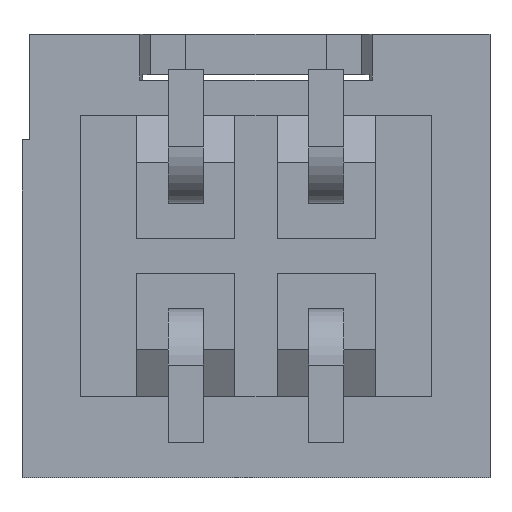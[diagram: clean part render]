
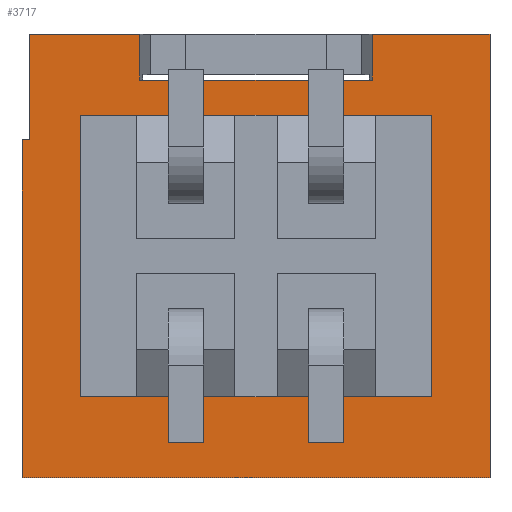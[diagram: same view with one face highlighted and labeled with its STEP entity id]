
A CAD part, front view. The second image highlights one B-rep face of the part: STEP entity #3717.
In plain terms, the highlighted planar face has unit normal (0, -1, 0).
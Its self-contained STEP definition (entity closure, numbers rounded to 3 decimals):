
#161=DIRECTION('',(0.,0.,-1.));
#162=VECTOR('',#161,4.);
#163=CARTESIAN_POINT('',(2.5,1.7,2.));
#164=LINE('',#163,#162);
#1241=DIRECTION('',(1.,0.,0.));
#1242=VECTOR('',#1241,5.);
#1243=CARTESIAN_POINT('',(-2.5,1.7,-2.));
#1244=LINE('',#1243,#1242);
#1245=DIRECTION('',(-1.,0.,0.));
#1246=VECTOR('',#1245,5.);
#1247=CARTESIAN_POINT('',(2.5,1.7,2.));
#1248=LINE('',#1247,#1246);
#1249=DIRECTION('',(0.,0.,-1.));
#1250=VECTOR('',#1249,4.);
#1251=CARTESIAN_POINT('',(-2.5,1.7,2.));
#1252=LINE('',#1251,#1250);
#1253=DIRECTION('',(1.,0.,0.));
#1254=VECTOR('',#1253,3.3);
#1255=CARTESIAN_POINT('',(-1.65,1.7,2.5));
#1256=LINE('',#1255,#1254);
#1257=DIRECTION('',(0.,0.,-1.));
#1258=VECTOR('',#1257,0.65);
#1259=CARTESIAN_POINT('',(1.65,1.7,3.15));
#1260=LINE('',#1259,#1258);
#1261=DIRECTION('',(1.,0.,0.));
#1262=VECTOR('',#1261,1.675);
#1263=CARTESIAN_POINT('',(1.65,1.7,3.15));
#1264=LINE('',#1263,#1262);
#1265=DIRECTION('',(-1.,0.,0.));
#1266=VECTOR('',#1265,6.65);
#1267=CARTESIAN_POINT('',(3.325,1.7,-3.15));
#1268=LINE('',#1267,#1266);
#1269=DIRECTION('',(1.,0.,0.));
#1270=VECTOR('',#1269,1.575);
#1271=CARTESIAN_POINT('',(-3.225,1.7,3.15));
#1272=LINE('',#1271,#1270);
#1273=DIRECTION('',(0.,0.,-1.));
#1274=VECTOR('',#1273,0.65);
#1275=CARTESIAN_POINT('',(-1.65,1.7,3.15));
#1276=LINE('',#1275,#1274);
#1321=DIRECTION('',(0.,0.,-1.));
#1322=VECTOR('',#1321,6.3);
#1323=CARTESIAN_POINT('',(3.325,1.7,3.15));
#1324=LINE('',#1323,#1322);
#1349=DIRECTION('',(0.,0.,1.));
#1350=VECTOR('',#1349,4.8);
#1351=CARTESIAN_POINT('',(-3.325,1.7,-3.15));
#1352=LINE('',#1351,#1350);
#1361=DIRECTION('',(-1.,0.,0.));
#1362=VECTOR('',#1361,0.1);
#1363=CARTESIAN_POINT('',(-3.225,1.7,1.65));
#1364=LINE('',#1363,#1362);
#1369=DIRECTION('',(0.,0.,-1.));
#1370=VECTOR('',#1369,1.5);
#1371=CARTESIAN_POINT('',(-3.225,1.7,3.15));
#1372=LINE('',#1371,#1370);
#1541=CARTESIAN_POINT('',(-3.325,1.7,-3.15));
#1542=CARTESIAN_POINT('',(-3.325,1.7,1.65));
#1543=VERTEX_POINT('',#1541);
#1544=VERTEX_POINT('',#1542);
#1545=CARTESIAN_POINT('',(3.325,1.7,3.15));
#1546=CARTESIAN_POINT('',(3.325,1.7,-3.15));
#1547=VERTEX_POINT('',#1545);
#1548=VERTEX_POINT('',#1546);
#1549=CARTESIAN_POINT('',(-3.225,1.7,3.15));
#1550=CARTESIAN_POINT('',(-3.225,1.7,1.65));
#1551=VERTEX_POINT('',#1549);
#1552=VERTEX_POINT('',#1550);
#1554=CARTESIAN_POINT('',(-2.5,1.7,-2.));
#1556=VERTEX_POINT('',#1554);
#1558=CARTESIAN_POINT('',(-2.5,1.7,2.));
#1560=VERTEX_POINT('',#1558);
#1561=CARTESIAN_POINT('',(2.5,1.7,-2.));
#1563=VERTEX_POINT('',#1561);
#1565=CARTESIAN_POINT('',(2.5,1.7,2.));
#1567=VERTEX_POINT('',#1565);
#1578=CARTESIAN_POINT('',(-1.65,1.7,3.15));
#1580=VERTEX_POINT('',#1578);
#1581=CARTESIAN_POINT('',(1.65,1.7,3.15));
#1583=VERTEX_POINT('',#1581);
#1593=CARTESIAN_POINT('',(-1.65,1.7,2.5));
#1594=CARTESIAN_POINT('',(1.65,1.7,2.5));
#1595=VERTEX_POINT('',#1593);
#1596=VERTEX_POINT('',#1594);
#3686=CARTESIAN_POINT('',(-2.5,1.7,3.15));
#3687=DIRECTION('',(0.,1.,0.));
#3688=DIRECTION('',(-1.,0.,0.));
#3689=AXIS2_PLACEMENT_3D('',#3686,#3687,#3688);
#3690=PLANE('',#3689);
#3692=ORIENTED_EDGE('',*,*,#3691,.T.);
#3694=ORIENTED_EDGE('',*,*,#3693,.F.);
#3695=ORIENTED_EDGE('',*,*,#3669,.T.);
#3697=ORIENTED_EDGE('',*,*,#3696,.T.);
#3699=ORIENTED_EDGE('',*,*,#3698,.T.);
#3701=ORIENTED_EDGE('',*,*,#3700,.T.);
#3703=ORIENTED_EDGE('',*,*,#3702,.F.);
#3705=ORIENTED_EDGE('',*,*,#3704,.F.);
#3706=ORIENTED_EDGE('',*,*,#3662,.T.);
#3707=ORIENTED_EDGE('',*,*,#3651,.T.);
#3708=EDGE_LOOP('',(#3692,#3694,#3695,#3697,#3699,#3701,#3703,#3705,#3706,
#3707));
#3709=FACE_OUTER_BOUND('',#3708,.F.);
#3710=ORIENTED_EDGE('',*,*,#2176,.T.);
#3711=ORIENTED_EDGE('',*,*,#2203,.F.);
#3712=ORIENTED_EDGE('',*,*,#2228,.T.);
#3714=ORIENTED_EDGE('',*,*,#3713,.T.);
#3715=EDGE_LOOP('',(#3710,#3711,#3712,#3714));
#3716=FACE_BOUND('',#3715,.F.);
#3717=ADVANCED_FACE('',(#3709,#3716),#3690,.F.);
#2176=EDGE_CURVE('',#1556,#1563,#1244,.T.);
#2203=EDGE_CURVE('',#1567,#1563,#164,.T.);
#2228=EDGE_CURVE('',#1567,#1560,#1248,.T.);
#3651=EDGE_CURVE('',#1580,#1595,#1276,.T.);
#3662=EDGE_CURVE('',#1551,#1580,#1272,.T.);
#3669=EDGE_CURVE('',#1583,#1547,#1264,.T.);
#3691=EDGE_CURVE('',#1595,#1596,#1256,.T.);
#3693=EDGE_CURVE('',#1583,#1596,#1260,.T.);
#3696=EDGE_CURVE('',#1547,#1548,#1324,.T.);
#3698=EDGE_CURVE('',#1548,#1543,#1268,.T.);
#3700=EDGE_CURVE('',#1543,#1544,#1352,.T.);
#3702=EDGE_CURVE('',#1552,#1544,#1364,.T.);
#3704=EDGE_CURVE('',#1551,#1552,#1372,.T.);
#3713=EDGE_CURVE('',#1560,#1556,#1252,.T.);
